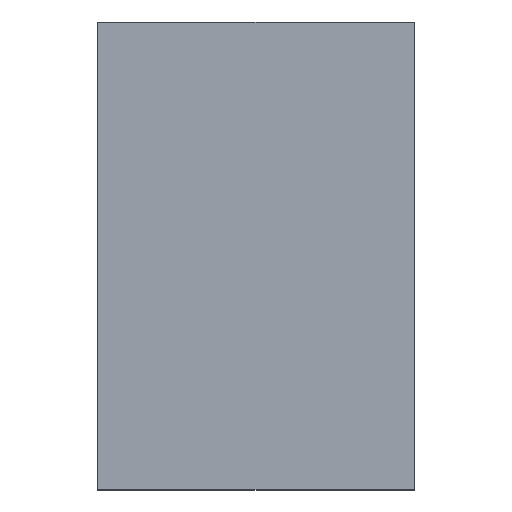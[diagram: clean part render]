
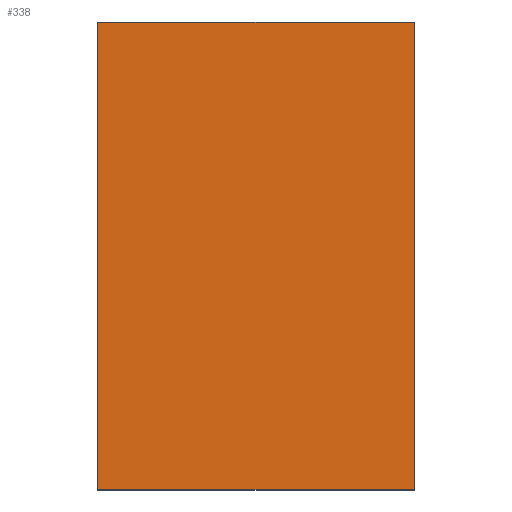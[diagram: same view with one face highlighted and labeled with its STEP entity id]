
A CAD part, top view. The second image highlights one B-rep face of the part: STEP entity #338.
In plain terms, the highlighted planar face has unit normal (0, 0, 1).
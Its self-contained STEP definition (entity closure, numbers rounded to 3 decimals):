
#24 = VERTEX_POINT('',#25);
#25 = CARTESIAN_POINT('',(-28.35,-40.9,15.5));
#32 = PLANE('',#33);
#33 = AXIS2_PLACEMENT_3D('',#34,#35,#36);
#34 = CARTESIAN_POINT('',(-28.35,-40.9,13.));
#35 = DIRECTION('',(1.,0.,0.));
#36 = DIRECTION('',(0.,0.,1.));
#44 = PLANE('',#45);
#45 = AXIS2_PLACEMENT_3D('',#46,#47,#48);
#46 = CARTESIAN_POINT('',(-28.35,-40.9,13.));
#47 = DIRECTION('',(0.,1.,0.));
#48 = DIRECTION('',(0.,0.,1.));
#85 = VERTEX_POINT('',#86);
#86 = CARTESIAN_POINT('',(-28.35,-25.1,15.5));
#100 = PLANE('',#101);
#101 = AXIS2_PLACEMENT_3D('',#102,#103,#104);
#102 = CARTESIAN_POINT('',(-28.35,-25.1,13.));
#103 = DIRECTION('',(0.,1.,0.));
#104 = DIRECTION('',(0.,0.,1.));
#112 = EDGE_CURVE('',#24,#85,#113,.T.);
#113 = SURFACE_CURVE('',#114,(#118,#125),.PCURVE_S1.);
#114 = LINE('',#115,#116);
#115 = CARTESIAN_POINT('',(-28.35,-40.9,15.5));
#116 = VECTOR('',#117,1.);
#117 = DIRECTION('',(0.,1.,0.));
#118 = PCURVE('',#32,#119);
#119 = DEFINITIONAL_REPRESENTATION('',(#120),#124);
#120 = LINE('',#121,#122);
#121 = CARTESIAN_POINT('',(2.5,0.));
#122 = VECTOR('',#123,1.);
#123 = DIRECTION('',(0.,-1.));
#124 = ( GEOMETRIC_REPRESENTATION_CONTEXT(2) 
PARAMETRIC_REPRESENTATION_CONTEXT() REPRESENTATION_CONTEXT('2D SPACE',''
  ) );
#125 = PCURVE('',#126,#131);
#126 = PLANE('',#127);
#127 = AXIS2_PLACEMENT_3D('',#128,#129,#130);
#128 = CARTESIAN_POINT('',(-28.35,-40.9,15.5));
#129 = DIRECTION('',(0.,0.,1.));
#130 = DIRECTION('',(1.,0.,0.));
#131 = DEFINITIONAL_REPRESENTATION('',(#132),#136);
#132 = LINE('',#133,#134);
#133 = CARTESIAN_POINT('',(0.,0.));
#134 = VECTOR('',#135,1.);
#135 = DIRECTION('',(0.,1.));
#136 = ( GEOMETRIC_REPRESENTATION_CONTEXT(2) 
PARAMETRIC_REPRESENTATION_CONTEXT() REPRESENTATION_CONTEXT('2D SPACE',''
  ) );
#144 = VERTEX_POINT('',#145);
#145 = CARTESIAN_POINT('',(-17.65,-40.9,15.5));
#152 = PLANE('',#153);
#153 = AXIS2_PLACEMENT_3D('',#154,#155,#156);
#154 = CARTESIAN_POINT('',(-17.65,-40.9,13.));
#155 = DIRECTION('',(1.,0.,0.));
#156 = DIRECTION('',(0.,0.,1.));
#195 = VERTEX_POINT('',#196);
#196 = CARTESIAN_POINT('',(-17.65,-25.1,15.5));
#217 = EDGE_CURVE('',#144,#195,#218,.T.);
#218 = SURFACE_CURVE('',#219,(#223,#230),.PCURVE_S1.);
#219 = LINE('',#220,#221);
#220 = CARTESIAN_POINT('',(-17.65,-40.9,15.5));
#221 = VECTOR('',#222,1.);
#222 = DIRECTION('',(0.,1.,0.));
#223 = PCURVE('',#152,#224);
#224 = DEFINITIONAL_REPRESENTATION('',(#225),#229);
#225 = LINE('',#226,#227);
#226 = CARTESIAN_POINT('',(2.5,0.));
#227 = VECTOR('',#228,1.);
#228 = DIRECTION('',(0.,-1.));
#229 = ( GEOMETRIC_REPRESENTATION_CONTEXT(2) 
PARAMETRIC_REPRESENTATION_CONTEXT() REPRESENTATION_CONTEXT('2D SPACE',''
  ) );
#230 = PCURVE('',#126,#231);
#231 = DEFINITIONAL_REPRESENTATION('',(#232),#236);
#232 = LINE('',#233,#234);
#233 = CARTESIAN_POINT('',(10.7,0.));
#234 = VECTOR('',#235,1.);
#235 = DIRECTION('',(0.,1.));
#236 = ( GEOMETRIC_REPRESENTATION_CONTEXT(2) 
PARAMETRIC_REPRESENTATION_CONTEXT() REPRESENTATION_CONTEXT('2D SPACE',''
  ) );
#263 = EDGE_CURVE('',#24,#144,#264,.T.);
#264 = SURFACE_CURVE('',#265,(#269,#276),.PCURVE_S1.);
#265 = LINE('',#266,#267);
#266 = CARTESIAN_POINT('',(-28.35,-40.9,15.5));
#267 = VECTOR('',#268,1.);
#268 = DIRECTION('',(1.,0.,0.));
#269 = PCURVE('',#44,#270);
#270 = DEFINITIONAL_REPRESENTATION('',(#271),#275);
#271 = LINE('',#272,#273);
#272 = CARTESIAN_POINT('',(2.5,0.));
#273 = VECTOR('',#274,1.);
#274 = DIRECTION('',(0.,1.));
#275 = ( GEOMETRIC_REPRESENTATION_CONTEXT(2) 
PARAMETRIC_REPRESENTATION_CONTEXT() REPRESENTATION_CONTEXT('2D SPACE',''
  ) );
#276 = PCURVE('',#126,#277);
#277 = DEFINITIONAL_REPRESENTATION('',(#278),#282);
#278 = LINE('',#279,#280);
#279 = CARTESIAN_POINT('',(0.,0.));
#280 = VECTOR('',#281,1.);
#281 = DIRECTION('',(1.,0.));
#282 = ( GEOMETRIC_REPRESENTATION_CONTEXT(2) 
PARAMETRIC_REPRESENTATION_CONTEXT() REPRESENTATION_CONTEXT('2D SPACE',''
  ) );
#310 = EDGE_CURVE('',#85,#195,#311,.T.);
#311 = SURFACE_CURVE('',#312,(#316,#323),.PCURVE_S1.);
#312 = LINE('',#313,#314);
#313 = CARTESIAN_POINT('',(-28.35,-25.1,15.5));
#314 = VECTOR('',#315,1.);
#315 = DIRECTION('',(1.,0.,0.));
#316 = PCURVE('',#100,#317);
#317 = DEFINITIONAL_REPRESENTATION('',(#318),#322);
#318 = LINE('',#319,#320);
#319 = CARTESIAN_POINT('',(2.5,0.));
#320 = VECTOR('',#321,1.);
#321 = DIRECTION('',(0.,1.));
#322 = ( GEOMETRIC_REPRESENTATION_CONTEXT(2) 
PARAMETRIC_REPRESENTATION_CONTEXT() REPRESENTATION_CONTEXT('2D SPACE',''
  ) );
#323 = PCURVE('',#126,#324);
#324 = DEFINITIONAL_REPRESENTATION('',(#325),#329);
#325 = LINE('',#326,#327);
#326 = CARTESIAN_POINT('',(0.,15.8));
#327 = VECTOR('',#328,1.);
#328 = DIRECTION('',(1.,0.));
#329 = ( GEOMETRIC_REPRESENTATION_CONTEXT(2) 
PARAMETRIC_REPRESENTATION_CONTEXT() REPRESENTATION_CONTEXT('2D SPACE',''
  ) );
#338 = ADVANCED_FACE('',(#339),#126,.T.);
#339 = FACE_BOUND('',#340,.T.);
#340 = EDGE_LOOP('',(#341,#342,#343,#344));
#341 = ORIENTED_EDGE('',*,*,#112,.F.);
#342 = ORIENTED_EDGE('',*,*,#263,.T.);
#343 = ORIENTED_EDGE('',*,*,#217,.T.);
#344 = ORIENTED_EDGE('',*,*,#310,.F.);
